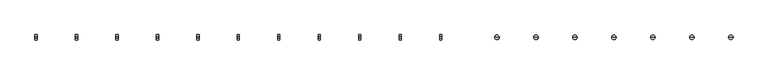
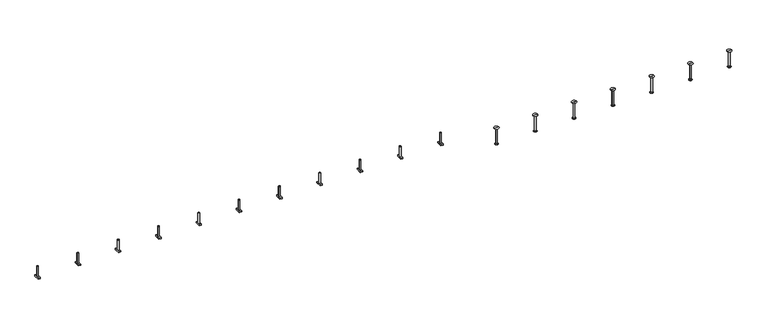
"""IFC4 building model written with IfcOpenShell, lengths in millimetres: fastener geometry, JTA-W JORDAHL® AnchorChannels : JTA-W L=6000 mm."""

from ifc_helpers import new_model, si_unit, frame, origin, place, context, project, spatial, polyline, circle_curve, source, transform, mapped, element, save
from ifc_brep_helpers import plane_surface, cylinder_surface, revolved_surface, advanced_brep


def fastener_9eb7d3e3(model_context):
    return source(origin(), model_context, "Body", "AdvancedBrep", [
        advanced_brep(
        [(3470.3421053, -20.7, -6.5), (3470.3421053, -20.7, -16.5), (3470.3421053, 20.7, -16.5), (3470.3421053, 20.7, -6.5), (3453.3421053, -20.7, -6.5), (3453.3421053, 20.7, -6.5), (3453.3421053, 20.7, -16.5), (3453.3421053, -20.7, -16.5), (3467.8421053, 0.0, -6.5), (3455.8421053, 0.0, -6.5), (3455.8421053, 0.0, 73.5), (3467.8421053, 0.0, 73.5)],
        [
            (0, 1),
            (1, 2),
            (2, 3),
            (3, 0),
            (4, 5),
            (5, 6),
            (6, 7),
            (7, 4),
            (3, 5),
            (4, 0),
            (8, 9, circle_curve(frame((3461.8421053, 0.0, -6.5), z_axis=(0.0, 0.0, -1.0), x_axis=(1.0, 0.0, 0.0)), 6.0)),
            (9, 8, circle_curve(frame((3461.8421053, 0.0, -6.5), z_axis=(0.0, 0.0, -1.0), x_axis=(1.0, 0.0, 0.0)), 6.0)),
            (2, 6),
            (1, 7),
            (10, 11, circle_curve(frame((3461.8421053, 0.0, 73.5), z_axis=(0.0, 0.0, 1.0), x_axis=(1.0, 0.0, 0.0)), 6.0)),
            (11, 10, circle_curve(frame((3461.8421053, 0.0, 73.5), z_axis=(0.0, 0.0, 1.0), x_axis=(1.0, 0.0, 0.0)), 6.0)),
            (11, 8),
            (9, 10),
        ],
        [
            plane_surface(frame((3470.3421053, 20.7, -6.5), z_axis=(1.0, 0.0, 0.0), x_axis=(0.0, 1.0, 0.0))),
            plane_surface(frame((3453.3421053, 20.7, -6.5), z_axis=(-1.0, 0.0, 0.0), x_axis=(0.0, -1.0, 0.0))),
            plane_surface(frame((3470.3421053, -20.7, -6.5), z_axis=(0.0, 0.0, 1.0), x_axis=(-1.0, 0.0, 0.0))),
            plane_surface(frame((3470.3421053, 20.7, -6.5), z_axis=(0.0, 1.0, 0.0), x_axis=(-1.0, 0.0, 0.0))),
            plane_surface(frame((3470.3421053, 20.7, -16.5), z_axis=(0.0, 0.0, -1.0), x_axis=(-1.0, 0.0, 0.0))),
            plane_surface(frame((3470.3421053, -20.7, -16.5), z_axis=(0.0, -1.0, 0.0), x_axis=(-1.0, 0.0, 0.0))),
            plane_surface(frame((3467.8421053, 0.0, 73.5), z_axis=(0.0, 0.0, 1.0), x_axis=(0.0, -1.0, 0.0))),
            cylinder_surface(frame((3461.8421053, 0.0, -6.5), z_axis=(0.0, 0.0, 1.0), x_axis=(1.0, 0.0, 0.0)), 6.0),
        ],
        [
            (0, [[1, 2, 3, 4]]),
            (1, [[5, 6, 7, 8]]),
            (2, [[9, -5, 10, -4], [11, 12]]),
            (3, [[13, -6, -9, -3]]),
            (4, [[14, -7, -13, -2]]),
            (5, [[-10, -8, -14, -1]]),
            (6, [[15, 16]]),
            (7, [[17, -12, 18, -16]]),
            (7, [[-18, -11, -17, -15]]),
        ],
    ),
        advanced_brep(
        [(3162.4473684, -20.7, -6.5), (3162.4473684, -20.7, -16.5), (3162.4473684, 20.7, -16.5), (3162.4473684, 20.7, -6.5), (3145.4473684, -20.7, -6.5), (3145.4473684, 20.7, -6.5), (3145.4473684, 20.7, -16.5), (3145.4473684, -20.7, -16.5), (3159.9473684, 0.0, -6.5), (3147.9473684, 0.0, -6.5), (3147.9473684, 0.0, 73.5), (3159.9473684, 0.0, 73.5)],
        [
            (0, 1),
            (1, 2),
            (2, 3),
            (3, 0),
            (4, 5),
            (5, 6),
            (6, 7),
            (7, 4),
            (3, 5),
            (4, 0),
            (8, 9, circle_curve(frame((3153.9473684, 0.0, -6.5), z_axis=(0.0, 0.0, -1.0), x_axis=(1.0, 0.0, 0.0)), 6.0)),
            (9, 8, circle_curve(frame((3153.9473684, 0.0, -6.5), z_axis=(0.0, 0.0, -1.0), x_axis=(1.0, 0.0, 0.0)), 6.0)),
            (2, 6),
            (1, 7),
            (10, 11, circle_curve(frame((3153.9473684, 0.0, 73.5), z_axis=(0.0, 0.0, 1.0), x_axis=(1.0, 0.0, 0.0)), 6.0)),
            (11, 10, circle_curve(frame((3153.9473684, 0.0, 73.5), z_axis=(0.0, 0.0, 1.0), x_axis=(1.0, 0.0, 0.0)), 6.0)),
            (11, 8),
            (9, 10),
        ],
        [
            plane_surface(frame((3162.4473684, 20.7, -6.5), z_axis=(1.0, 0.0, 0.0), x_axis=(0.0, 1.0, 0.0))),
            plane_surface(frame((3145.4473684, 20.7, -6.5), z_axis=(-1.0, 0.0, 0.0), x_axis=(0.0, -1.0, 0.0))),
            plane_surface(frame((3162.4473684, -20.7, -6.5), z_axis=(0.0, 0.0, 1.0), x_axis=(-1.0, 0.0, 0.0))),
            plane_surface(frame((3162.4473684, 20.7, -6.5), z_axis=(0.0, 1.0, 0.0), x_axis=(-1.0, 0.0, 0.0))),
            plane_surface(frame((3162.4473684, 20.7, -16.5), z_axis=(0.0, 0.0, -1.0), x_axis=(-1.0, 0.0, 0.0))),
            plane_surface(frame((3162.4473684, -20.7, -16.5), z_axis=(0.0, -1.0, 0.0), x_axis=(-1.0, 0.0, 0.0))),
            plane_surface(frame((3159.9473684, 0.0, 73.5), z_axis=(0.0, 0.0, 1.0), x_axis=(0.0, -1.0, 0.0))),
            cylinder_surface(frame((3153.9473684, 0.0, -6.5), z_axis=(0.0, 0.0, 1.0), x_axis=(1.0, 0.0, 0.0)), 6.0),
        ],
        [
            (0, [[1, 2, 3, 4]]),
            (1, [[5, 6, 7, 8]]),
            (2, [[9, -5, 10, -4], [11, 12]]),
            (3, [[13, -6, -9, -3]]),
            (4, [[14, -7, -13, -2]]),
            (5, [[-10, -8, -14, -1]]),
            (6, [[15, 16]]),
            (7, [[17, -12, 18, -16]]),
            (7, [[-18, -11, -17, -15]]),
        ],
    ),
        advanced_brep(
        [(2854.5526316, -20.7, -6.5), (2854.5526316, -20.7, -16.5), (2854.5526316, 20.7, -16.5), (2854.5526316, 20.7, -6.5), (2837.5526316, -20.7, -6.5), (2837.5526316, 20.7, -6.5), (2837.5526316, 20.7, -16.5), (2837.5526316, -20.7, -16.5), (2852.0526316, 0.0, -6.5), (2840.0526316, 0.0, -6.5), (2840.0526316, 0.0, 73.5), (2852.0526316, 0.0, 73.5)],
        [
            (0, 1),
            (1, 2),
            (2, 3),
            (3, 0),
            (4, 5),
            (5, 6),
            (6, 7),
            (7, 4),
            (3, 5),
            (4, 0),
            (8, 9, circle_curve(frame((2846.0526316, 0.0, -6.5), z_axis=(0.0, 0.0, -1.0), x_axis=(1.0, 0.0, 0.0)), 6.0)),
            (9, 8, circle_curve(frame((2846.0526316, 0.0, -6.5), z_axis=(0.0, 0.0, -1.0), x_axis=(1.0, 0.0, 0.0)), 6.0)),
            (2, 6),
            (1, 7),
            (10, 11, circle_curve(frame((2846.0526316, 0.0, 73.5), z_axis=(0.0, 0.0, 1.0), x_axis=(1.0, 0.0, 0.0)), 6.0)),
            (11, 10, circle_curve(frame((2846.0526316, 0.0, 73.5), z_axis=(0.0, 0.0, 1.0), x_axis=(1.0, 0.0, 0.0)), 6.0)),
            (11, 8),
            (9, 10),
        ],
        [
            plane_surface(frame((2854.5526316, 20.7, -6.5), z_axis=(1.0, 0.0, 0.0), x_axis=(0.0, 1.0, 0.0))),
            plane_surface(frame((2837.5526316, 20.7, -6.5), z_axis=(-1.0, 0.0, 0.0), x_axis=(0.0, -1.0, 0.0))),
            plane_surface(frame((2854.5526316, -20.7, -6.5), z_axis=(0.0, 0.0, 1.0), x_axis=(-1.0, 0.0, 0.0))),
            plane_surface(frame((2854.5526316, 20.7, -6.5), z_axis=(0.0, 1.0, 0.0), x_axis=(-1.0, 0.0, 0.0))),
            plane_surface(frame((2854.5526316, 20.7, -16.5), z_axis=(0.0, 0.0, -1.0), x_axis=(-1.0, 0.0, 0.0))),
            plane_surface(frame((2854.5526316, -20.7, -16.5), z_axis=(0.0, -1.0, 0.0), x_axis=(-1.0, 0.0, 0.0))),
            plane_surface(frame((2852.0526316, 0.0, 73.5), z_axis=(0.0, 0.0, 1.0), x_axis=(0.0, -1.0, 0.0))),
            cylinder_surface(frame((2846.0526316, 0.0, -6.5), z_axis=(0.0, 0.0, 1.0), x_axis=(1.0, 0.0, 0.0)), 6.0),
        ],
        [
            (0, [[1, 2, 3, 4]]),
            (1, [[5, 6, 7, 8]]),
            (2, [[9, -5, 10, -4], [11, 12]]),
            (3, [[13, -6, -9, -3]]),
            (4, [[14, -7, -13, -2]]),
            (5, [[-10, -8, -14, -1]]),
            (6, [[15, 16]]),
            (7, [[17, -12, 18, -16]]),
            (7, [[-18, -11, -17, -15]]),
        ],
    ),
        advanced_brep(
        [(2546.6578947, -20.7, -6.5), (2546.6578947, -20.7, -16.5), (2546.6578947, 20.7, -16.5), (2546.6578947, 20.7, -6.5), (2529.6578947, -20.7, -6.5), (2529.6578947, 20.7, -6.5), (2529.6578947, 20.7, -16.5), (2529.6578947, -20.7, -16.5), (2544.1578947, 0.0, -6.5), (2532.1578947, 0.0, -6.5), (2532.1578947, 0.0, 73.5), (2544.1578947, 0.0, 73.5)],
        [
            (0, 1),
            (1, 2),
            (2, 3),
            (3, 0),
            (4, 5),
            (5, 6),
            (6, 7),
            (7, 4),
            (3, 5),
            (4, 0),
            (8, 9, circle_curve(frame((2538.1578947, 0.0, -6.5), z_axis=(0.0, 0.0, -1.0), x_axis=(1.0, 0.0, 0.0)), 6.0)),
            (9, 8, circle_curve(frame((2538.1578947, 0.0, -6.5), z_axis=(0.0, 0.0, -1.0), x_axis=(1.0, 0.0, 0.0)), 6.0)),
            (2, 6),
            (1, 7),
            (10, 11, circle_curve(frame((2538.1578947, 0.0, 73.5), z_axis=(0.0, 0.0, 1.0), x_axis=(1.0, 0.0, 0.0)), 6.0)),
            (11, 10, circle_curve(frame((2538.1578947, 0.0, 73.5), z_axis=(0.0, 0.0, 1.0), x_axis=(1.0, 0.0, 0.0)), 6.0)),
            (11, 8),
            (9, 10),
        ],
        [
            plane_surface(frame((2546.6578947, 20.7, -6.5), z_axis=(1.0, 0.0, 0.0), x_axis=(0.0, 1.0, 0.0))),
            plane_surface(frame((2529.6578947, 20.7, -6.5), z_axis=(-1.0, 0.0, 0.0), x_axis=(0.0, -1.0, 0.0))),
            plane_surface(frame((2546.6578947, -20.7, -6.5), z_axis=(0.0, 0.0, 1.0), x_axis=(-1.0, 0.0, 0.0))),
            plane_surface(frame((2546.6578947, 20.7, -6.5), z_axis=(0.0, 1.0, 0.0), x_axis=(-1.0, 0.0, 0.0))),
            plane_surface(frame((2546.6578947, 20.7, -16.5), z_axis=(0.0, 0.0, -1.0), x_axis=(-1.0, 0.0, 0.0))),
            plane_surface(frame((2546.6578947, -20.7, -16.5), z_axis=(0.0, -1.0, 0.0), x_axis=(-1.0, 0.0, 0.0))),
            plane_surface(frame((2544.1578947, 0.0, 73.5), z_axis=(0.0, 0.0, 1.0), x_axis=(0.0, -1.0, 0.0))),
            cylinder_surface(frame((2538.1578947, 0.0, -6.5), z_axis=(0.0, 0.0, 1.0), x_axis=(1.0, 0.0, 0.0)), 6.0),
        ],
        [
            (0, [[1, 2, 3, 4]]),
            (1, [[5, 6, 7, 8]]),
            (2, [[9, -5, 10, -4], [11, 12]]),
            (3, [[13, -6, -9, -3]]),
            (4, [[14, -7, -13, -2]]),
            (5, [[-10, -8, -14, -1]]),
            (6, [[15, 16]]),
            (7, [[17, -12, 18, -16]]),
            (7, [[-18, -11, -17, -15]]),
        ],
    ),
        advanced_brep(
        [(2238.7631579, -20.7, -6.5), (2238.7631579, -20.7, -16.5), (2238.7631579, 20.7, -16.5), (2238.7631579, 20.7, -6.5), (2221.7631579, -20.7, -6.5), (2221.7631579, 20.7, -6.5), (2221.7631579, 20.7, -16.5), (2221.7631579, -20.7, -16.5), (2236.2631579, 0.0, -6.5), (2224.2631579, 0.0, -6.5), (2224.2631579, 0.0, 73.5), (2236.2631579, 0.0, 73.5)],
        [
            (0, 1),
            (1, 2),
            (2, 3),
            (3, 0),
            (4, 5),
            (5, 6),
            (6, 7),
            (7, 4),
            (3, 5),
            (4, 0),
            (8, 9, circle_curve(frame((2230.2631579, 0.0, -6.5), z_axis=(0.0, 0.0, -1.0), x_axis=(1.0, 0.0, 0.0)), 6.0)),
            (9, 8, circle_curve(frame((2230.2631579, 0.0, -6.5), z_axis=(0.0, 0.0, -1.0), x_axis=(1.0, 0.0, 0.0)), 6.0)),
            (2, 6),
            (1, 7),
            (10, 11, circle_curve(frame((2230.2631579, 0.0, 73.5), z_axis=(0.0, 0.0, 1.0), x_axis=(1.0, 0.0, 0.0)), 6.0)),
            (11, 10, circle_curve(frame((2230.2631579, 0.0, 73.5), z_axis=(0.0, 0.0, 1.0), x_axis=(1.0, 0.0, 0.0)), 6.0)),
            (11, 8),
            (9, 10),
        ],
        [
            plane_surface(frame((2238.7631579, 20.7, -6.5), z_axis=(1.0, 0.0, 0.0), x_axis=(0.0, 1.0, 0.0))),
            plane_surface(frame((2221.7631579, 20.7, -6.5), z_axis=(-1.0, 0.0, 0.0), x_axis=(0.0, -1.0, 0.0))),
            plane_surface(frame((2238.7631579, -20.7, -6.5), z_axis=(0.0, 0.0, 1.0), x_axis=(-1.0, 0.0, 0.0))),
            plane_surface(frame((2238.7631579, 20.7, -6.5), z_axis=(0.0, 1.0, 0.0), x_axis=(-1.0, 0.0, 0.0))),
            plane_surface(frame((2238.7631579, 20.7, -16.5), z_axis=(0.0, 0.0, -1.0), x_axis=(-1.0, 0.0, 0.0))),
            plane_surface(frame((2238.7631579, -20.7, -16.5), z_axis=(0.0, -1.0, 0.0), x_axis=(-1.0, 0.0, 0.0))),
            plane_surface(frame((2236.2631579, 0.0, 73.5), z_axis=(0.0, 0.0, 1.0), x_axis=(0.0, -1.0, 0.0))),
            cylinder_surface(frame((2230.2631579, 0.0, -6.5), z_axis=(0.0, 0.0, 1.0), x_axis=(1.0, 0.0, 0.0)), 6.0),
        ],
        [
            (0, [[1, 2, 3, 4]]),
            (1, [[5, 6, 7, 8]]),
            (2, [[9, -5, 10, -4], [11, 12]]),
            (3, [[13, -6, -9, -3]]),
            (4, [[14, -7, -13, -2]]),
            (5, [[-10, -8, -14, -1]]),
            (6, [[15, 16]]),
            (7, [[17, -12, 18, -16]]),
            (7, [[-18, -11, -17, -15]]),
        ],
    ),
        advanced_brep(
        [(1930.8684211, -20.7, -6.5), (1930.8684211, -20.7, -16.5), (1930.8684211, 20.7, -16.5), (1930.8684211, 20.7, -6.5), (1913.8684211, -20.7, -6.5), (1913.8684211, 20.7, -6.5), (1913.8684211, 20.7, -16.5), (1913.8684211, -20.7, -16.5), (1928.3684211, 0.0, -6.5), (1916.3684211, 0.0, -6.5), (1916.3684211, 0.0, 73.5), (1928.3684211, 0.0, 73.5)],
        [
            (0, 1),
            (1, 2),
            (2, 3),
            (3, 0),
            (4, 5),
            (5, 6),
            (6, 7),
            (7, 4),
            (3, 5),
            (4, 0),
            (8, 9, circle_curve(frame((1922.3684211, 0.0, -6.5), z_axis=(0.0, 0.0, -1.0), x_axis=(1.0, 0.0, 0.0)), 6.0)),
            (9, 8, circle_curve(frame((1922.3684211, 0.0, -6.5), z_axis=(0.0, 0.0, -1.0), x_axis=(1.0, 0.0, 0.0)), 6.0)),
            (2, 6),
            (1, 7),
            (10, 11, circle_curve(frame((1922.3684211, 0.0, 73.5), z_axis=(0.0, 0.0, 1.0), x_axis=(1.0, 0.0, 0.0)), 6.0)),
            (11, 10, circle_curve(frame((1922.3684211, 0.0, 73.5), z_axis=(0.0, 0.0, 1.0), x_axis=(1.0, 0.0, 0.0)), 6.0)),
            (11, 8),
            (9, 10),
        ],
        [
            plane_surface(frame((1930.8684211, 20.7, -6.5), z_axis=(1.0, 0.0, 0.0), x_axis=(0.0, 1.0, 0.0))),
            plane_surface(frame((1913.8684211, 20.7, -6.5), z_axis=(-1.0, 0.0, 0.0), x_axis=(0.0, -1.0, 0.0))),
            plane_surface(frame((1930.8684211, -20.7, -6.5), z_axis=(0.0, 0.0, 1.0), x_axis=(-1.0, 0.0, 0.0))),
            plane_surface(frame((1930.8684211, 20.7, -6.5), z_axis=(0.0, 1.0, 0.0), x_axis=(-1.0, 0.0, 0.0))),
            plane_surface(frame((1930.8684211, 20.7, -16.5), z_axis=(0.0, 0.0, -1.0), x_axis=(-1.0, 0.0, 0.0))),
            plane_surface(frame((1930.8684211, -20.7, -16.5), z_axis=(0.0, -1.0, 0.0), x_axis=(-1.0, 0.0, 0.0))),
            plane_surface(frame((1928.3684211, 0.0, 73.5), z_axis=(0.0, 0.0, 1.0), x_axis=(0.0, -1.0, 0.0))),
            cylinder_surface(frame((1922.3684211, 0.0, -6.5), z_axis=(0.0, 0.0, 1.0), x_axis=(1.0, 0.0, 0.0)), 6.0),
        ],
        [
            (0, [[1, 2, 3, 4]]),
            (1, [[5, 6, 7, 8]]),
            (2, [[9, -5, 10, -4], [11, 12]]),
            (3, [[13, -6, -9, -3]]),
            (4, [[14, -7, -13, -2]]),
            (5, [[-10, -8, -14, -1]]),
            (6, [[15, 16]]),
            (7, [[17, -12, 18, -16]]),
            (7, [[-18, -11, -17, -15]]),
        ],
    ),
        advanced_brep(
        [(1622.9736842, -20.7, -6.5), (1622.9736842, -20.7, -16.5), (1622.9736842, 20.7, -16.5), (1622.9736842, 20.7, -6.5), (1605.9736842, -20.7, -6.5), (1605.9736842, 20.7, -6.5), (1605.9736842, 20.7, -16.5), (1605.9736842, -20.7, -16.5), (1620.4736842, 0.0, -6.5), (1608.4736842, 0.0, -6.5), (1608.4736842, 0.0, 73.5), (1620.4736842, 0.0, 73.5)],
        [
            (0, 1),
            (1, 2),
            (2, 3),
            (3, 0),
            (4, 5),
            (5, 6),
            (6, 7),
            (7, 4),
            (3, 5),
            (4, 0),
            (8, 9, circle_curve(frame((1614.4736842, 0.0, -6.5), z_axis=(0.0, 0.0, -1.0), x_axis=(1.0, 0.0, 0.0)), 6.0)),
            (9, 8, circle_curve(frame((1614.4736842, 0.0, -6.5), z_axis=(0.0, 0.0, -1.0), x_axis=(1.0, 0.0, 0.0)), 6.0)),
            (2, 6),
            (1, 7),
            (10, 11, circle_curve(frame((1614.4736842, 0.0, 73.5), z_axis=(0.0, 0.0, 1.0), x_axis=(1.0, 0.0, 0.0)), 6.0)),
            (11, 10, circle_curve(frame((1614.4736842, 0.0, 73.5), z_axis=(0.0, 0.0, 1.0), x_axis=(1.0, 0.0, 0.0)), 6.0)),
            (11, 8),
            (9, 10),
        ],
        [
            plane_surface(frame((1622.9736842, 20.7, -6.5), z_axis=(1.0, 0.0, 0.0), x_axis=(0.0, 1.0, 0.0))),
            plane_surface(frame((1605.9736842, 20.7, -6.5), z_axis=(-1.0, 0.0, 0.0), x_axis=(0.0, -1.0, 0.0))),
            plane_surface(frame((1622.9736842, -20.7, -6.5), z_axis=(0.0, 0.0, 1.0), x_axis=(-1.0, 0.0, 0.0))),
            plane_surface(frame((1622.9736842, 20.7, -6.5), z_axis=(0.0, 1.0, 0.0), x_axis=(-1.0, 0.0, 0.0))),
            plane_surface(frame((1622.9736842, 20.7, -16.5), z_axis=(0.0, 0.0, -1.0), x_axis=(-1.0, 0.0, 0.0))),
            plane_surface(frame((1622.9736842, -20.7, -16.5), z_axis=(0.0, -1.0, 0.0), x_axis=(-1.0, 0.0, 0.0))),
            plane_surface(frame((1620.4736842, 0.0, 73.5), z_axis=(0.0, 0.0, 1.0), x_axis=(0.0, -1.0, 0.0))),
            cylinder_surface(frame((1614.4736842, 0.0, -6.5), z_axis=(0.0, 0.0, 1.0), x_axis=(1.0, 0.0, 0.0)), 6.0),
        ],
        [
            (0, [[1, 2, 3, 4]]),
            (1, [[5, 6, 7, 8]]),
            (2, [[9, -5, 10, -4], [11, 12]]),
            (3, [[13, -6, -9, -3]]),
            (4, [[14, -7, -13, -2]]),
            (5, [[-10, -8, -14, -1]]),
            (6, [[15, 16]]),
            (7, [[17, -12, 18, -16]]),
            (7, [[-18, -11, -17, -15]]),
        ],
    ),
        advanced_brep(
        [(1315.0789474, -20.7, -6.5), (1315.0789474, -20.7, -16.5), (1315.0789474, 20.7, -16.5), (1315.0789474, 20.7, -6.5), (1298.0789474, -20.7, -6.5), (1298.0789474, 20.7, -6.5), (1298.0789474, 20.7, -16.5), (1298.0789474, -20.7, -16.5), (1312.5789474, 0.0, -6.5), (1300.5789474, 0.0, -6.5), (1300.5789474, 0.0, 73.5), (1312.5789474, 0.0, 73.5)],
        [
            (0, 1),
            (1, 2),
            (2, 3),
            (3, 0),
            (4, 5),
            (5, 6),
            (6, 7),
            (7, 4),
            (3, 5),
            (4, 0),
            (8, 9, circle_curve(frame((1306.5789474, 0.0, -6.5), z_axis=(0.0, 0.0, -1.0), x_axis=(1.0, 0.0, 0.0)), 6.0)),
            (9, 8, circle_curve(frame((1306.5789474, 0.0, -6.5), z_axis=(0.0, 0.0, -1.0), x_axis=(1.0, 0.0, 0.0)), 6.0)),
            (2, 6),
            (1, 7),
            (10, 11, circle_curve(frame((1306.5789474, 0.0, 73.5), z_axis=(0.0, 0.0, 1.0), x_axis=(1.0, 0.0, 0.0)), 6.0)),
            (11, 10, circle_curve(frame((1306.5789474, 0.0, 73.5), z_axis=(0.0, 0.0, 1.0), x_axis=(1.0, 0.0, 0.0)), 6.0)),
            (11, 8),
            (9, 10),
        ],
        [
            plane_surface(frame((1315.0789474, 20.7, -6.5), z_axis=(1.0, 0.0, 0.0), x_axis=(0.0, 1.0, 0.0))),
            plane_surface(frame((1298.0789474, 20.7, -6.5), z_axis=(-1.0, 0.0, 0.0), x_axis=(0.0, -1.0, 0.0))),
            plane_surface(frame((1315.0789474, -20.7, -6.5), z_axis=(0.0, 0.0, 1.0), x_axis=(-1.0, 0.0, 0.0))),
            plane_surface(frame((1315.0789474, 20.7, -6.5), z_axis=(0.0, 1.0, 0.0), x_axis=(-1.0, 0.0, 0.0))),
            plane_surface(frame((1315.0789474, 20.7, -16.5), z_axis=(0.0, 0.0, -1.0), x_axis=(-1.0, 0.0, 0.0))),
            plane_surface(frame((1315.0789474, -20.7, -16.5), z_axis=(0.0, -1.0, 0.0), x_axis=(-1.0, 0.0, 0.0))),
            plane_surface(frame((1312.5789474, 0.0, 73.5), z_axis=(0.0, 0.0, 1.0), x_axis=(0.0, -1.0, 0.0))),
            cylinder_surface(frame((1306.5789474, 0.0, -6.5), z_axis=(0.0, 0.0, 1.0), x_axis=(1.0, 0.0, 0.0)), 6.0),
        ],
        [
            (0, [[1, 2, 3, 4]]),
            (1, [[5, 6, 7, 8]]),
            (2, [[9, -5, 10, -4], [11, 12]]),
            (3, [[13, -6, -9, -3]]),
            (4, [[14, -7, -13, -2]]),
            (5, [[-10, -8, -14, -1]]),
            (6, [[15, 16]]),
            (7, [[17, -12, 18, -16]]),
            (7, [[-18, -11, -17, -15]]),
        ],
    ),
        advanced_brep(
        [(1007.1842105, -20.7, -6.5), (1007.1842105, -20.7, -16.5), (1007.1842105, 20.7, -16.5), (1007.1842105, 20.7, -6.5), (990.1842105, -20.7, -6.5), (990.1842105, 20.7, -6.5), (990.1842105, 20.7, -16.5), (990.1842105, -20.7, -16.5), (1004.6842105, 0.0, -6.5), (992.6842105, 0.0, -6.5), (992.6842105, 0.0, 73.5), (1004.6842105, 0.0, 73.5)],
        [
            (0, 1),
            (1, 2),
            (2, 3),
            (3, 0),
            (4, 5),
            (5, 6),
            (6, 7),
            (7, 4),
            (3, 5),
            (4, 0),
            (8, 9, circle_curve(frame((998.6842105, 0.0, -6.5), z_axis=(0.0, 0.0, -1.0), x_axis=(1.0, 0.0, 0.0)), 6.0)),
            (9, 8, circle_curve(frame((998.6842105, 0.0, -6.5), z_axis=(0.0, 0.0, -1.0), x_axis=(1.0, 0.0, 0.0)), 6.0)),
            (2, 6),
            (1, 7),
            (10, 11, circle_curve(frame((998.6842105, 0.0, 73.5), z_axis=(0.0, 0.0, 1.0), x_axis=(1.0, 0.0, 0.0)), 6.0)),
            (11, 10, circle_curve(frame((998.6842105, 0.0, 73.5), z_axis=(0.0, 0.0, 1.0), x_axis=(1.0, 0.0, 0.0)), 6.0)),
            (11, 8),
            (9, 10),
        ],
        [
            plane_surface(frame((1007.1842105, 20.7, -6.5), z_axis=(1.0, 0.0, 0.0), x_axis=(0.0, 1.0, 0.0))),
            plane_surface(frame((990.1842105, 20.7, -6.5), z_axis=(-1.0, 0.0, 0.0), x_axis=(0.0, -1.0, 0.0))),
            plane_surface(frame((1007.1842105, -20.7, -6.5), z_axis=(0.0, 0.0, 1.0), x_axis=(-1.0, 0.0, 0.0))),
            plane_surface(frame((1007.1842105, 20.7, -6.5), z_axis=(0.0, 1.0, 0.0), x_axis=(-1.0, 0.0, 0.0))),
            plane_surface(frame((1007.1842105, 20.7, -16.5), z_axis=(0.0, 0.0, -1.0), x_axis=(-1.0, 0.0, 0.0))),
            plane_surface(frame((1007.1842105, -20.7, -16.5), z_axis=(0.0, -1.0, 0.0), x_axis=(-1.0, 0.0, 0.0))),
            plane_surface(frame((1004.6842105, 0.0, 73.5), z_axis=(0.0, 0.0, 1.0), x_axis=(0.0, -1.0, 0.0))),
            cylinder_surface(frame((998.6842105, 0.0, -6.5), z_axis=(0.0, 0.0, 1.0), x_axis=(1.0, 0.0, 0.0)), 6.0),
        ],
        [
            (0, [[1, 2, 3, 4]]),
            (1, [[5, 6, 7, 8]]),
            (2, [[9, -5, 10, -4], [11, 12]]),
            (3, [[13, -6, -9, -3]]),
            (4, [[14, -7, -13, -2]]),
            (5, [[-10, -8, -14, -1]]),
            (6, [[15, 16]]),
            (7, [[17, -12, 18, -16]]),
            (7, [[-18, -11, -17, -15]]),
        ],
    ),
        advanced_brep(
        [(699.2894737, -20.7, -6.5), (699.2894737, -20.7, -16.5), (699.2894737, 20.7, -16.5), (699.2894737, 20.7, -6.5), (682.2894737, -20.7, -6.5), (682.2894737, 20.7, -6.5), (682.2894737, 20.7, -16.5), (682.2894737, -20.7, -16.5), (696.7894737, 0.0, -6.5), (684.7894737, 0.0, -6.5), (684.7894737, 0.0, 73.5), (696.7894737, 0.0, 73.5)],
        [
            (0, 1),
            (1, 2),
            (2, 3),
            (3, 0),
            (4, 5),
            (5, 6),
            (6, 7),
            (7, 4),
            (3, 5),
            (4, 0),
            (8, 9, circle_curve(frame((690.7894737, 0.0, -6.5), z_axis=(0.0, 0.0, -1.0), x_axis=(1.0, 0.0, 0.0)), 6.0)),
            (9, 8, circle_curve(frame((690.7894737, 0.0, -6.5), z_axis=(0.0, 0.0, -1.0), x_axis=(1.0, 0.0, 0.0)), 6.0)),
            (2, 6),
            (1, 7),
            (10, 11, circle_curve(frame((690.7894737, 0.0, 73.5), z_axis=(0.0, 0.0, 1.0), x_axis=(1.0, 0.0, 0.0)), 6.0)),
            (11, 10, circle_curve(frame((690.7894737, 0.0, 73.5), z_axis=(0.0, 0.0, 1.0), x_axis=(1.0, 0.0, 0.0)), 6.0)),
            (11, 8),
            (9, 10),
        ],
        [
            plane_surface(frame((699.2894737, 20.7, -6.5), z_axis=(1.0, 0.0, 0.0), x_axis=(0.0, 1.0, 0.0))),
            plane_surface(frame((682.2894737, 20.7, -6.5), z_axis=(-1.0, 0.0, 0.0), x_axis=(0.0, -1.0, 0.0))),
            plane_surface(frame((699.2894737, -20.7, -6.5), z_axis=(0.0, 0.0, 1.0), x_axis=(-1.0, 0.0, 0.0))),
            plane_surface(frame((699.2894737, 20.7, -6.5), z_axis=(0.0, 1.0, 0.0), x_axis=(-1.0, 0.0, 0.0))),
            plane_surface(frame((699.2894737, 20.7, -16.5), z_axis=(0.0, 0.0, -1.0), x_axis=(-1.0, 0.0, 0.0))),
            plane_surface(frame((699.2894737, -20.7, -16.5), z_axis=(0.0, -1.0, 0.0), x_axis=(-1.0, 0.0, 0.0))),
            plane_surface(frame((696.7894737, 0.0, 73.5), z_axis=(0.0, 0.0, 1.0), x_axis=(0.0, -1.0, 0.0))),
            cylinder_surface(frame((690.7894737, 0.0, -6.5), z_axis=(0.0, 0.0, 1.0), x_axis=(1.0, 0.0, 0.0)), 6.0),
        ],
        [
            (0, [[1, 2, 3, 4]]),
            (1, [[5, 6, 7, 8]]),
            (2, [[9, -5, 10, -4], [11, 12]]),
            (3, [[13, -6, -9, -3]]),
            (4, [[14, -7, -13, -2]]),
            (5, [[-10, -8, -14, -1]]),
            (6, [[15, 16]]),
            (7, [[17, -12, 18, -16]]),
            (7, [[-18, -11, -17, -15]]),
        ],
    ),
        advanced_brep(
        [(391.3947368, -20.7, -6.5), (391.3947368, -20.7, -16.5), (391.3947368, 20.7, -16.5), (391.3947368, 20.7, -6.5), (374.3947368, -20.7, -6.5), (374.3947368, 20.7, -6.5), (374.3947368, 20.7, -16.5), (374.3947368, -20.7, -16.5), (388.8947368, 0.0, -6.5), (376.8947368, 0.0, -6.5), (376.8947368, 0.0, 73.5), (388.8947368, 0.0, 73.5)],
        [
            (0, 1),
            (1, 2),
            (2, 3),
            (3, 0),
            (4, 5),
            (5, 6),
            (6, 7),
            (7, 4),
            (3, 5),
            (4, 0),
            (8, 9, circle_curve(frame((382.8947368, 0.0, -6.5), z_axis=(0.0, 0.0, -1.0), x_axis=(1.0, 0.0, 0.0)), 6.0)),
            (9, 8, circle_curve(frame((382.8947368, 0.0, -6.5), z_axis=(0.0, 0.0, -1.0), x_axis=(1.0, 0.0, 0.0)), 6.0)),
            (2, 6),
            (1, 7),
            (10, 11, circle_curve(frame((382.8947368, 0.0, 73.5), z_axis=(0.0, 0.0, 1.0), x_axis=(1.0, 0.0, 0.0)), 6.0)),
            (11, 10, circle_curve(frame((382.8947368, 0.0, 73.5), z_axis=(0.0, 0.0, 1.0), x_axis=(1.0, 0.0, 0.0)), 6.0)),
            (11, 8),
            (9, 10),
        ],
        [
            plane_surface(frame((391.3947368, 20.7, -6.5), z_axis=(1.0, 0.0, 0.0), x_axis=(0.0, 1.0, 0.0))),
            plane_surface(frame((374.3947368, 20.7, -6.5), z_axis=(-1.0, 0.0, 0.0), x_axis=(0.0, -1.0, 0.0))),
            plane_surface(frame((391.3947368, -20.7, -6.5), z_axis=(0.0, 0.0, 1.0), x_axis=(-1.0, 0.0, 0.0))),
            plane_surface(frame((391.3947368, 20.7, -6.5), z_axis=(0.0, 1.0, 0.0), x_axis=(-1.0, 0.0, 0.0))),
            plane_surface(frame((391.3947368, 20.7, -16.5), z_axis=(0.0, 0.0, -1.0), x_axis=(-1.0, 0.0, 0.0))),
            plane_surface(frame((391.3947368, -20.7, -16.5), z_axis=(0.0, -1.0, 0.0), x_axis=(-1.0, 0.0, 0.0))),
            plane_surface(frame((388.8947368, 0.0, 73.5), z_axis=(0.0, 0.0, 1.0), x_axis=(0.0, -1.0, 0.0))),
            cylinder_surface(frame((382.8947368, 0.0, -6.5), z_axis=(0.0, 0.0, 1.0), x_axis=(1.0, 0.0, 0.0)), 6.0),
        ],
        [
            (0, [[1, 2, 3, 4]]),
            (1, [[5, 6, 7, 8]]),
            (2, [[9, -5, 10, -4], [11, 12]]),
            (3, [[13, -6, -9, -3]]),
            (4, [[14, -7, -13, -2]]),
            (5, [[-10, -8, -14, -1]]),
            (6, [[15, 16]]),
            (7, [[17, -12, 18, -16]]),
            (7, [[-18, -11, -17, -15]]),
        ],
    ),
        advanced_brep(
        [(5668.5, 0.0, -34.0), (5651.0, 0.0, -34.0), (5686.0, 0.0, -34.0), (5656.7, 0.0, -165.0), (5668.5, 0.0, -165.0), (5680.3, 0.0, -165.0), (5656.7, 0.0, -163.0), (5680.3, 0.0, -163.0), (5662.7, 0.0, -159.5358984), (5674.3, 0.0, -159.5358984), (5662.7, 0.0, -37.0), (5674.3, 0.0, -37.0)],
        [
            (0, 1),
            (1, 2, circle_curve(frame((5668.5, 0.0, -34.0), z_axis=(0.0, 0.0, 1.0), x_axis=(1.0, 0.0, 0.0)), 17.5)),
            (2, 0),
            (2, 1, circle_curve(frame((5668.5, 0.0, -34.0), z_axis=(0.0, 0.0, 1.0), x_axis=(1.0, 0.0, 0.0)), 17.5)),
            (3, 4),
            (4, 5),
            (5, 3, circle_curve(frame((5668.5, 0.0, -165.0), z_axis=(0.0, 0.0, -1.0), x_axis=(1.0, 0.0, 0.0)), 11.8)),
            (3, 5, circle_curve(frame((5668.5, 0.0, -165.0), z_axis=(0.0, 0.0, -1.0), x_axis=(1.0, 0.0, 0.0)), 11.8)),
            (6, 3),
            (5, 7),
            (7, 6, circle_curve(frame((5668.5, 0.0, -163.0), z_axis=(0.0, 0.0, -1.0), x_axis=(1.0, 0.0, 0.0)), 11.8)),
            (6, 7, circle_curve(frame((5668.5, 0.0, -163.0), z_axis=(0.0, 0.0, -1.0), x_axis=(1.0, 0.0, 0.0)), 11.8)),
            (8, 6),
            (7, 9),
            (9, 8, circle_curve(frame((5668.5, 0.0, -159.5358984), z_axis=(0.0, 0.0, -1.0), x_axis=(1.0, 0.0, 0.0)), 5.8)),
            (8, 9, circle_curve(frame((5668.5, 0.0, -159.5358984), z_axis=(0.0, 0.0, -1.0), x_axis=(1.0, 0.0, 0.0)), 5.8)),
            (10, 8),
            (9, 11),
            (11, 10, circle_curve(frame((5668.5, 0.0, -37.0), z_axis=(0.0, 0.0, -1.0), x_axis=(1.0, 0.0, 0.0)), 5.8)),
            (10, 11, circle_curve(frame((5668.5, 0.0, -37.0), z_axis=(0.0, 0.0, -1.0), x_axis=(1.0, 0.0, 0.0)), 5.8)),
            (1, 10),
            (11, 2),
        ],
        [
            plane_surface(frame((5668.5, 0.0, -34.0), z_axis=(0.0, 0.0, 1.0), x_axis=(1.0, 0.0, 0.0))),
            plane_surface(frame((5668.5, 0.0, -165.0), z_axis=(0.0, 0.0, -1.0), x_axis=(1.0, 0.0, 0.0))),
            cylinder_surface(frame((5668.5, 0.0, 2345.3150031), z_axis=(0.0, 0.0, 1.0), x_axis=(1.0, 0.0, 0.0)), 11.8),
            revolved_surface(polyline([(5680.3, 0.0, -163.0), (5674.3, 0.0, -159.5358984)]), (5668.5, 0.0, 2345.3150031), (0.0, 0.0, 1.0)),
            cylinder_surface(frame((5668.5, 0.0, 2345.3150031), z_axis=(0.0, 0.0, 1.0), x_axis=(1.0, 0.0, 0.0)), 5.8),
            revolved_surface(polyline([(5674.3, 0.0, -37.0), (5686.0, 0.0, -34.0)]), (5668.5, 0.0, 2345.3150031), (0.0, 0.0, 1.0)),
        ],
        [
            (0, [[1, 2, 3]]),
            (0, [[-3, 4, -1]]),
            (1, [[5, 6, 7]]),
            (1, [[-6, -5, 8]]),
            (2, [[9, -7, 10, 11]]),
            (2, [[-10, -8, -9, 12]]),
            (3, [[13, -11, 14, 15]]),
            (3, [[-14, -12, -13, 16]]),
            (4, [[17, -15, 18, 19]]),
            (4, [[-18, -16, -17, 20]]),
            (5, [[21, -19, 22, -2]]),
            (5, [[-22, -20, -21, -4]]),
        ],
    ),
        advanced_brep(
        [(5372.0, 0.0, -34.0), (5354.5, 0.0, -34.0), (5389.5, 0.0, -34.0), (5360.2, 0.0, -165.0), (5372.0, 0.0, -165.0), (5383.8, 0.0, -165.0), (5360.2, 0.0, -163.0), (5383.8, 0.0, -163.0), (5366.2, 0.0, -159.5358984), (5377.8, 0.0, -159.5358984), (5366.2, 0.0, -37.0), (5377.8, 0.0, -37.0)],
        [
            (0, 1),
            (1, 2, circle_curve(frame((5372.0, 0.0, -34.0), z_axis=(0.0, 0.0, 1.0), x_axis=(1.0, 0.0, 0.0)), 17.5)),
            (2, 0),
            (2, 1, circle_curve(frame((5372.0, 0.0, -34.0), z_axis=(0.0, 0.0, 1.0), x_axis=(1.0, 0.0, 0.0)), 17.5)),
            (3, 4),
            (4, 5),
            (5, 3, circle_curve(frame((5372.0, 0.0, -165.0), z_axis=(0.0, 0.0, -1.0), x_axis=(1.0, 0.0, 0.0)), 11.8)),
            (3, 5, circle_curve(frame((5372.0, 0.0, -165.0), z_axis=(0.0, 0.0, -1.0), x_axis=(1.0, 0.0, 0.0)), 11.8)),
            (6, 3),
            (5, 7),
            (7, 6, circle_curve(frame((5372.0, 0.0, -163.0), z_axis=(0.0, 0.0, -1.0), x_axis=(1.0, 0.0, 0.0)), 11.8)),
            (6, 7, circle_curve(frame((5372.0, 0.0, -163.0), z_axis=(0.0, 0.0, -1.0), x_axis=(1.0, 0.0, 0.0)), 11.8)),
            (8, 6),
            (7, 9),
            (9, 8, circle_curve(frame((5372.0, 0.0, -159.5358984), z_axis=(0.0, 0.0, -1.0), x_axis=(1.0, 0.0, 0.0)), 5.8)),
            (8, 9, circle_curve(frame((5372.0, 0.0, -159.5358984), z_axis=(0.0, 0.0, -1.0), x_axis=(1.0, 0.0, 0.0)), 5.8)),
            (10, 8),
            (9, 11),
            (11, 10, circle_curve(frame((5372.0, 0.0, -37.0), z_axis=(0.0, 0.0, -1.0), x_axis=(1.0, 0.0, 0.0)), 5.8)),
            (10, 11, circle_curve(frame((5372.0, 0.0, -37.0), z_axis=(0.0, 0.0, -1.0), x_axis=(1.0, 0.0, 0.0)), 5.8)),
            (1, 10),
            (11, 2),
        ],
        [
            plane_surface(frame((5372.0, 0.0, -34.0), z_axis=(0.0, 0.0, 1.0), x_axis=(1.0, 0.0, 0.0))),
            plane_surface(frame((5372.0, 0.0, -165.0), z_axis=(0.0, 0.0, -1.0), x_axis=(1.0, 0.0, 0.0))),
            cylinder_surface(frame((5372.0, 0.0, 2345.3150031), z_axis=(0.0, 0.0, 1.0), x_axis=(1.0, 0.0, 0.0)), 11.8),
            revolved_surface(polyline([(5383.8, 0.0, -163.0), (5377.8, 0.0, -159.5358984)]), (5372.0, 0.0, 2345.3150031), (0.0, 0.0, 1.0)),
            cylinder_surface(frame((5372.0, 0.0, 2345.3150031), z_axis=(0.0, 0.0, 1.0), x_axis=(1.0, 0.0, 0.0)), 5.8),
            revolved_surface(polyline([(5377.8, 0.0, -37.0), (5389.5, 0.0, -34.0)]), (5372.0, 0.0, 2345.3150031), (0.0, 0.0, 1.0)),
        ],
        [
            (0, [[1, 2, 3]]),
            (0, [[-3, 4, -1]]),
            (1, [[5, 6, 7]]),
            (1, [[-6, -5, 8]]),
            (2, [[9, -7, 10, 11]]),
            (2, [[-10, -8, -9, 12]]),
            (3, [[13, -11, 14, 15]]),
            (3, [[-14, -12, -13, 16]]),
            (4, [[17, -15, 18, 19]]),
            (4, [[-18, -16, -17, 20]]),
            (5, [[21, -19, 22, -2]]),
            (5, [[-22, -20, -21, -4]]),
        ],
    ),
        advanced_brep(
        [(5075.5, 0.0, -34.0), (5058.0, 0.0, -34.0), (5093.0, 0.0, -34.0), (5063.7, 0.0, -165.0), (5075.5, 0.0, -165.0), (5087.3, 0.0, -165.0), (5063.7, 0.0, -163.0), (5087.3, 0.0, -163.0), (5069.7, 0.0, -159.5358984), (5081.3, 0.0, -159.5358984), (5069.7, 0.0, -37.0), (5081.3, 0.0, -37.0)],
        [
            (0, 1),
            (1, 2, circle_curve(frame((5075.5, 0.0, -34.0), z_axis=(0.0, 0.0, 1.0), x_axis=(1.0, 0.0, 0.0)), 17.5)),
            (2, 0),
            (2, 1, circle_curve(frame((5075.5, 0.0, -34.0), z_axis=(0.0, 0.0, 1.0), x_axis=(1.0, 0.0, 0.0)), 17.5)),
            (3, 4),
            (4, 5),
            (5, 3, circle_curve(frame((5075.5, 0.0, -165.0), z_axis=(0.0, 0.0, -1.0), x_axis=(1.0, 0.0, 0.0)), 11.8)),
            (3, 5, circle_curve(frame((5075.5, 0.0, -165.0), z_axis=(0.0, 0.0, -1.0), x_axis=(1.0, 0.0, 0.0)), 11.8)),
            (6, 3),
            (5, 7),
            (7, 6, circle_curve(frame((5075.5, 0.0, -163.0), z_axis=(0.0, 0.0, -1.0), x_axis=(1.0, 0.0, 0.0)), 11.8)),
            (6, 7, circle_curve(frame((5075.5, 0.0, -163.0), z_axis=(0.0, 0.0, -1.0), x_axis=(1.0, 0.0, 0.0)), 11.8)),
            (8, 6),
            (7, 9),
            (9, 8, circle_curve(frame((5075.5, 0.0, -159.5358984), z_axis=(0.0, 0.0, -1.0), x_axis=(1.0, 0.0, 0.0)), 5.8)),
            (8, 9, circle_curve(frame((5075.5, 0.0, -159.5358984), z_axis=(0.0, 0.0, -1.0), x_axis=(1.0, 0.0, 0.0)), 5.8)),
            (10, 8),
            (9, 11),
            (11, 10, circle_curve(frame((5075.5, 0.0, -37.0), z_axis=(0.0, 0.0, -1.0), x_axis=(1.0, 0.0, 0.0)), 5.8)),
            (10, 11, circle_curve(frame((5075.5, 0.0, -37.0), z_axis=(0.0, 0.0, -1.0), x_axis=(1.0, 0.0, 0.0)), 5.8)),
            (1, 10),
            (11, 2),
        ],
        [
            plane_surface(frame((5075.5, 0.0, -34.0), z_axis=(0.0, 0.0, 1.0), x_axis=(1.0, 0.0, 0.0))),
            plane_surface(frame((5075.5, 0.0, -165.0), z_axis=(0.0, 0.0, -1.0), x_axis=(1.0, 0.0, 0.0))),
            cylinder_surface(frame((5075.5, 0.0, 2345.3150031), z_axis=(0.0, 0.0, 1.0), x_axis=(1.0, 0.0, 0.0)), 11.8),
            revolved_surface(polyline([(5087.3, 0.0, -163.0), (5081.3, 0.0, -159.5358984)]), (5075.5, 0.0, 2345.3150031), (0.0, 0.0, 1.0)),
            cylinder_surface(frame((5075.5, 0.0, 2345.3150031), z_axis=(0.0, 0.0, 1.0), x_axis=(1.0, 0.0, 0.0)), 5.8),
            revolved_surface(polyline([(5081.3, 0.0, -37.0), (5093.0, 0.0, -34.0)]), (5075.5, 0.0, 2345.3150031), (0.0, 0.0, 1.0)),
        ],
        [
            (0, [[1, 2, 3]]),
            (0, [[-3, 4, -1]]),
            (1, [[5, 6, 7]]),
            (1, [[-6, -5, 8]]),
            (2, [[9, -7, 10, 11]]),
            (2, [[-10, -8, -9, 12]]),
            (3, [[13, -11, 14, 15]]),
            (3, [[-14, -12, -13, 16]]),
            (4, [[17, -15, 18, 19]]),
            (4, [[-18, -16, -17, 20]]),
            (5, [[21, -19, 22, -2]]),
            (5, [[-22, -20, -21, -4]]),
        ],
    ),
        advanced_brep(
        [(4779.0, 0.0, -34.0), (4761.5, 0.0, -34.0), (4796.5, 0.0, -34.0), (4767.2, 0.0, -165.0), (4779.0, 0.0, -165.0), (4790.8, 0.0, -165.0), (4767.2, 0.0, -163.0), (4790.8, 0.0, -163.0), (4773.2, 0.0, -159.5358984), (4784.8, 0.0, -159.5358984), (4773.2, 0.0, -37.0), (4784.8, 0.0, -37.0)],
        [
            (0, 1),
            (1, 2, circle_curve(frame((4779.0, 0.0, -34.0), z_axis=(0.0, 0.0, 1.0), x_axis=(1.0, 0.0, 0.0)), 17.5)),
            (2, 0),
            (2, 1, circle_curve(frame((4779.0, 0.0, -34.0), z_axis=(0.0, 0.0, 1.0), x_axis=(1.0, 0.0, 0.0)), 17.5)),
            (3, 4),
            (4, 5),
            (5, 3, circle_curve(frame((4779.0, 0.0, -165.0), z_axis=(0.0, 0.0, -1.0), x_axis=(1.0, 0.0, 0.0)), 11.8)),
            (3, 5, circle_curve(frame((4779.0, 0.0, -165.0), z_axis=(0.0, 0.0, -1.0), x_axis=(1.0, 0.0, 0.0)), 11.8)),
            (6, 3),
            (5, 7),
            (7, 6, circle_curve(frame((4779.0, 0.0, -163.0), z_axis=(0.0, 0.0, -1.0), x_axis=(1.0, 0.0, 0.0)), 11.8)),
            (6, 7, circle_curve(frame((4779.0, 0.0, -163.0), z_axis=(0.0, 0.0, -1.0), x_axis=(1.0, 0.0, 0.0)), 11.8)),
            (8, 6),
            (7, 9),
            (9, 8, circle_curve(frame((4779.0, 0.0, -159.5358984), z_axis=(0.0, 0.0, -1.0), x_axis=(1.0, 0.0, 0.0)), 5.8)),
            (8, 9, circle_curve(frame((4779.0, 0.0, -159.5358984), z_axis=(0.0, 0.0, -1.0), x_axis=(1.0, 0.0, 0.0)), 5.8)),
            (10, 8),
            (9, 11),
            (11, 10, circle_curve(frame((4779.0, 0.0, -37.0), z_axis=(0.0, 0.0, -1.0), x_axis=(1.0, 0.0, 0.0)), 5.8)),
            (10, 11, circle_curve(frame((4779.0, 0.0, -37.0), z_axis=(0.0, 0.0, -1.0), x_axis=(1.0, 0.0, 0.0)), 5.8)),
            (1, 10),
            (11, 2),
        ],
        [
            plane_surface(frame((4779.0, 0.0, -34.0), z_axis=(0.0, 0.0, 1.0), x_axis=(1.0, 0.0, 0.0))),
            plane_surface(frame((4779.0, 0.0, -165.0), z_axis=(0.0, 0.0, -1.0), x_axis=(1.0, 0.0, 0.0))),
            cylinder_surface(frame((4779.0, 0.0, 2345.3150031), z_axis=(0.0, 0.0, 1.0), x_axis=(1.0, 0.0, 0.0)), 11.8),
            revolved_surface(polyline([(4790.8, 0.0, -163.0), (4784.8, 0.0, -159.5358984)]), (4779.0, 0.0, 2345.3150031), (0.0, 0.0, 1.0)),
            cylinder_surface(frame((4779.0, 0.0, 2345.3150031), z_axis=(0.0, 0.0, 1.0), x_axis=(1.0, 0.0, 0.0)), 5.8),
            revolved_surface(polyline([(4784.8, 0.0, -37.0), (4796.5, 0.0, -34.0)]), (4779.0, 0.0, 2345.3150031), (0.0, 0.0, 1.0)),
        ],
        [
            (0, [[1, 2, 3]]),
            (0, [[-3, 4, -1]]),
            (1, [[5, 6, 7]]),
            (1, [[-6, -5, 8]]),
            (2, [[9, -7, 10, 11]]),
            (2, [[-10, -8, -9, 12]]),
            (3, [[13, -11, 14, 15]]),
            (3, [[-14, -12, -13, 16]]),
            (4, [[17, -15, 18, 19]]),
            (4, [[-18, -16, -17, 20]]),
            (5, [[21, -19, 22, -2]]),
            (5, [[-22, -20, -21, -4]]),
        ],
    ),
        advanced_brep(
        [(4482.5, 0.0, -34.0), (4465.0, 0.0, -34.0), (4500.0, 0.0, -34.0), (4470.7, 0.0, -165.0), (4482.5, 0.0, -165.0), (4494.3, 0.0, -165.0), (4470.7, 0.0, -163.0), (4494.3, 0.0, -163.0), (4476.7, 0.0, -159.5358984), (4488.3, 0.0, -159.5358984), (4476.7, 0.0, -37.0), (4488.3, 0.0, -37.0)],
        [
            (0, 1),
            (1, 2, circle_curve(frame((4482.5, 0.0, -34.0), z_axis=(0.0, 0.0, 1.0), x_axis=(1.0, 0.0, 0.0)), 17.5)),
            (2, 0),
            (2, 1, circle_curve(frame((4482.5, 0.0, -34.0), z_axis=(0.0, 0.0, 1.0), x_axis=(1.0, 0.0, 0.0)), 17.5)),
            (3, 4),
            (4, 5),
            (5, 3, circle_curve(frame((4482.5, 0.0, -165.0), z_axis=(0.0, 0.0, -1.0), x_axis=(1.0, 0.0, 0.0)), 11.8)),
            (3, 5, circle_curve(frame((4482.5, 0.0, -165.0), z_axis=(0.0, 0.0, -1.0), x_axis=(1.0, 0.0, 0.0)), 11.8)),
            (6, 3),
            (5, 7),
            (7, 6, circle_curve(frame((4482.5, 0.0, -163.0), z_axis=(0.0, 0.0, -1.0), x_axis=(1.0, 0.0, 0.0)), 11.8)),
            (6, 7, circle_curve(frame((4482.5, 0.0, -163.0), z_axis=(0.0, 0.0, -1.0), x_axis=(1.0, 0.0, 0.0)), 11.8)),
            (8, 6),
            (7, 9),
            (9, 8, circle_curve(frame((4482.5, 0.0, -159.5358984), z_axis=(0.0, 0.0, -1.0), x_axis=(1.0, 0.0, 0.0)), 5.8)),
            (8, 9, circle_curve(frame((4482.5, 0.0, -159.5358984), z_axis=(0.0, 0.0, -1.0), x_axis=(1.0, 0.0, 0.0)), 5.8)),
            (10, 8),
            (9, 11),
            (11, 10, circle_curve(frame((4482.5, 0.0, -37.0), z_axis=(0.0, 0.0, -1.0), x_axis=(1.0, 0.0, 0.0)), 5.8)),
            (10, 11, circle_curve(frame((4482.5, 0.0, -37.0), z_axis=(0.0, 0.0, -1.0), x_axis=(1.0, 0.0, 0.0)), 5.8)),
            (1, 10),
            (11, 2),
        ],
        [
            plane_surface(frame((4482.5, 0.0, -34.0), z_axis=(0.0, 0.0, 1.0), x_axis=(1.0, 0.0, 0.0))),
            plane_surface(frame((4482.5, 0.0, -165.0), z_axis=(0.0, 0.0, -1.0), x_axis=(1.0, 0.0, 0.0))),
            cylinder_surface(frame((4482.5, 0.0, 2345.3150031), z_axis=(0.0, 0.0, 1.0), x_axis=(1.0, 0.0, 0.0)), 11.8),
            revolved_surface(polyline([(4494.3, 0.0, -163.0), (4488.3, 0.0, -159.5358984)]), (4482.5, 0.0, 2345.3150031), (0.0, 0.0, 1.0)),
            cylinder_surface(frame((4482.5, 0.0, 2345.3150031), z_axis=(0.0, 0.0, 1.0), x_axis=(1.0, 0.0, 0.0)), 5.8),
            revolved_surface(polyline([(4488.3, 0.0, -37.0), (4500.0, 0.0, -34.0)]), (4482.5, 0.0, 2345.3150031), (0.0, 0.0, 1.0)),
        ],
        [
            (0, [[1, 2, 3]]),
            (0, [[-3, 4, -1]]),
            (1, [[5, 6, 7]]),
            (1, [[-6, -5, 8]]),
            (2, [[9, -7, 10, 11]]),
            (2, [[-10, -8, -9, 12]]),
            (3, [[13, -11, 14, 15]]),
            (3, [[-14, -12, -13, 16]]),
            (4, [[17, -15, 18, 19]]),
            (4, [[-18, -16, -17, 20]]),
            (5, [[21, -19, 22, -2]]),
            (5, [[-22, -20, -21, -4]]),
        ],
    ),
        advanced_brep(
        [(4186.0, 0.0, -34.0), (4168.5, 0.0, -34.0), (4203.5, 0.0, -34.0), (4174.2, 0.0, -165.0), (4186.0, 0.0, -165.0), (4197.8, 0.0, -165.0), (4174.2, 0.0, -163.0), (4197.8, 0.0, -163.0), (4180.2, 0.0, -159.5358984), (4191.8, 0.0, -159.5358984), (4180.2, 0.0, -37.0), (4191.8, 0.0, -37.0)],
        [
            (0, 1),
            (1, 2, circle_curve(frame((4186.0, 0.0, -34.0), z_axis=(0.0, 0.0, 1.0), x_axis=(1.0, 0.0, 0.0)), 17.5)),
            (2, 0),
            (2, 1, circle_curve(frame((4186.0, 0.0, -34.0), z_axis=(0.0, 0.0, 1.0), x_axis=(1.0, 0.0, 0.0)), 17.5)),
            (3, 4),
            (4, 5),
            (5, 3, circle_curve(frame((4186.0, 0.0, -165.0), z_axis=(0.0, 0.0, -1.0), x_axis=(1.0, 0.0, 0.0)), 11.8)),
            (3, 5, circle_curve(frame((4186.0, 0.0, -165.0), z_axis=(0.0, 0.0, -1.0), x_axis=(1.0, 0.0, 0.0)), 11.8)),
            (6, 3),
            (5, 7),
            (7, 6, circle_curve(frame((4186.0, 0.0, -163.0), z_axis=(0.0, 0.0, -1.0), x_axis=(1.0, 0.0, 0.0)), 11.8)),
            (6, 7, circle_curve(frame((4186.0, 0.0, -163.0), z_axis=(0.0, 0.0, -1.0), x_axis=(1.0, 0.0, 0.0)), 11.8)),
            (8, 6),
            (7, 9),
            (9, 8, circle_curve(frame((4186.0, 0.0, -159.5358984), z_axis=(0.0, 0.0, -1.0), x_axis=(1.0, 0.0, 0.0)), 5.8)),
            (8, 9, circle_curve(frame((4186.0, 0.0, -159.5358984), z_axis=(0.0, 0.0, -1.0), x_axis=(1.0, 0.0, 0.0)), 5.8)),
            (10, 8),
            (9, 11),
            (11, 10, circle_curve(frame((4186.0, 0.0, -37.0), z_axis=(0.0, 0.0, -1.0), x_axis=(1.0, 0.0, 0.0)), 5.8)),
            (10, 11, circle_curve(frame((4186.0, 0.0, -37.0), z_axis=(0.0, 0.0, -1.0), x_axis=(1.0, 0.0, 0.0)), 5.8)),
            (1, 10),
            (11, 2),
        ],
        [
            plane_surface(frame((4186.0, 0.0, -34.0), z_axis=(0.0, 0.0, 1.0), x_axis=(1.0, 0.0, 0.0))),
            plane_surface(frame((4186.0, 0.0, -165.0), z_axis=(0.0, 0.0, -1.0), x_axis=(1.0, 0.0, 0.0))),
            cylinder_surface(frame((4186.0, 0.0, 2345.3150031), z_axis=(0.0, 0.0, 1.0), x_axis=(1.0, 0.0, 0.0)), 11.8),
            revolved_surface(polyline([(4197.8, 0.0, -163.0), (4191.8, 0.0, -159.5358984)]), (4186.0, 0.0, 2345.3150031), (0.0, 0.0, 1.0)),
            cylinder_surface(frame((4186.0, 0.0, 2345.3150031), z_axis=(0.0, 0.0, 1.0), x_axis=(1.0, 0.0, 0.0)), 5.8),
            revolved_surface(polyline([(4191.8, 0.0, -37.0), (4203.5, 0.0, -34.0)]), (4186.0, 0.0, 2345.3150031), (0.0, 0.0, 1.0)),
        ],
        [
            (0, [[1, 2, 3]]),
            (0, [[-3, 4, -1]]),
            (1, [[5, 6, 7]]),
            (1, [[-6, -5, 8]]),
            (2, [[9, -7, 10, 11]]),
            (2, [[-10, -8, -9, 12]]),
            (3, [[13, -11, 14, 15]]),
            (3, [[-14, -12, -13, 16]]),
            (4, [[17, -15, 18, 19]]),
            (4, [[-18, -16, -17, 20]]),
            (5, [[21, -19, 22, -2]]),
            (5, [[-22, -20, -21, -4]]),
        ],
    ),
        advanced_brep(
        [(3889.5, 0.0, -34.0), (3872.0, 0.0, -34.0), (3907.0, 0.0, -34.0), (3877.7, 0.0, -165.0), (3889.5, 0.0, -165.0), (3901.3, 0.0, -165.0), (3877.7, 0.0, -163.0), (3901.3, 0.0, -163.0), (3883.7, 0.0, -159.5358984), (3895.3, 0.0, -159.5358984), (3883.7, 0.0, -37.0), (3895.3, 0.0, -37.0)],
        [
            (0, 1),
            (1, 2, circle_curve(frame((3889.5, 0.0, -34.0), z_axis=(0.0, 0.0, 1.0), x_axis=(1.0, 0.0, 0.0)), 17.5)),
            (2, 0),
            (2, 1, circle_curve(frame((3889.5, 0.0, -34.0), z_axis=(0.0, 0.0, 1.0), x_axis=(1.0, 0.0, 0.0)), 17.5)),
            (3, 4),
            (4, 5),
            (5, 3, circle_curve(frame((3889.5, 0.0, -165.0), z_axis=(0.0, 0.0, -1.0), x_axis=(1.0, 0.0, 0.0)), 11.8)),
            (3, 5, circle_curve(frame((3889.5, 0.0, -165.0), z_axis=(0.0, 0.0, -1.0), x_axis=(1.0, 0.0, 0.0)), 11.8)),
            (6, 3),
            (5, 7),
            (7, 6, circle_curve(frame((3889.5, 0.0, -163.0), z_axis=(0.0, 0.0, -1.0), x_axis=(1.0, 0.0, 0.0)), 11.8)),
            (6, 7, circle_curve(frame((3889.5, 0.0, -163.0), z_axis=(0.0, 0.0, -1.0), x_axis=(1.0, 0.0, 0.0)), 11.8)),
            (8, 6),
            (7, 9),
            (9, 8, circle_curve(frame((3889.5, 0.0, -159.5358984), z_axis=(0.0, 0.0, -1.0), x_axis=(1.0, 0.0, 0.0)), 5.8)),
            (8, 9, circle_curve(frame((3889.5, 0.0, -159.5358984), z_axis=(0.0, 0.0, -1.0), x_axis=(1.0, 0.0, 0.0)), 5.8)),
            (10, 8),
            (9, 11),
            (11, 10, circle_curve(frame((3889.5, 0.0, -37.0), z_axis=(0.0, 0.0, -1.0), x_axis=(1.0, 0.0, 0.0)), 5.8)),
            (10, 11, circle_curve(frame((3889.5, 0.0, -37.0), z_axis=(0.0, 0.0, -1.0), x_axis=(1.0, 0.0, 0.0)), 5.8)),
            (1, 10),
            (11, 2),
        ],
        [
            plane_surface(frame((3889.5, 0.0, -34.0), z_axis=(0.0, 0.0, 1.0), x_axis=(1.0, 0.0, 0.0))),
            plane_surface(frame((3889.5, 0.0, -165.0), z_axis=(0.0, 0.0, -1.0), x_axis=(1.0, 0.0, 0.0))),
            cylinder_surface(frame((3889.5, 0.0, 2345.3150031), z_axis=(0.0, 0.0, 1.0), x_axis=(1.0, 0.0, 0.0)), 11.8),
            revolved_surface(polyline([(3901.3, 0.0, -163.0), (3895.3, 0.0, -159.5358984)]), (3889.5, 0.0, 2345.3150031), (0.0, 0.0, 1.0)),
            cylinder_surface(frame((3889.5, 0.0, 2345.3150031), z_axis=(0.0, 0.0, 1.0), x_axis=(1.0, 0.0, 0.0)), 5.8),
            revolved_surface(polyline([(3895.3, 0.0, -37.0), (3907.0, 0.0, -34.0)]), (3889.5, 0.0, 2345.3150031), (0.0, 0.0, 1.0)),
        ],
        [
            (0, [[1, 2, 3]]),
            (0, [[-3, 4, -1]]),
            (1, [[5, 6, 7]]),
            (1, [[-6, -5, 8]]),
            (2, [[9, -7, 10, 11]]),
            (2, [[-10, -8, -9, 12]]),
            (3, [[13, -11, 14, 15]]),
            (3, [[-14, -12, -13, 16]]),
            (4, [[17, -15, 18, 19]]),
            (4, [[-18, -16, -17, 20]]),
            (5, [[21, -19, 22, -2]]),
            (5, [[-22, -20, -21, -4]]),
        ],
    ),
    ])


if __name__ == "__main__":
    model = new_model("IFC4")
    model_context = context("Model", 3, world=origin())
    ifc_project = project(units=[si_unit("LENGTHUNIT", "METRE", prefix="MILLI")], contexts=[model_context])
    site = spatial("IfcSite", under=ifc_project)
    building = spatial("IfcBuilding", under=site)
    placement = place(None, origin())
    fastener_shape = fastener_9eb7d3e3(model_context)
    element("IfcFastener", 1, ObjectType="JTA-W JORDAHL® AnchorChannels : JTA-W L=6000 mm", at=placement, inside=building, context=model_context, shape_type="MappedRepresentation", body=[
        mapped(fastener_shape, transform((0.0, 0.0, 0.0), x_axis=(1.0, 0.0, 0.0), y_axis=(0.0, 1.0, 0.0), z_axis=(0.0, 0.0, 1.0))),
    ])
    save(model, "model.ifc")
